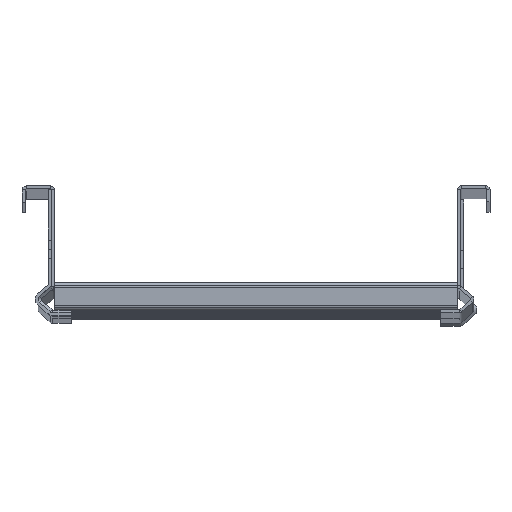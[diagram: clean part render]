
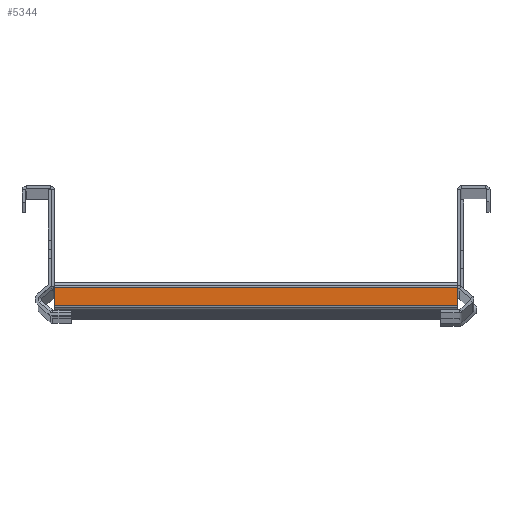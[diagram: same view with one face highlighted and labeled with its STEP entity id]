
A CAD part, top view. The second image highlights one B-rep face of the part: STEP entity #5344.
In plain terms, the highlighted planar face has unit normal (0, 0, 1) as drawn and (-1, 0, 0) by its records, which use the part's own axes.
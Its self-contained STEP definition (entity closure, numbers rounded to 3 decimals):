
#132 = FACE_OUTER_BOUND ( 'NONE', #4379, .T. ) ;
#154 = ORIENTED_EDGE ( 'NONE', *, *, #4807, .T. ) ;
#178 = CARTESIAN_POINT ( 'NONE',  ( -17.5, 2.5, 100. ) ) ;
#195 = VERTEX_POINT ( 'NONE', #4702 ) ;
#534 = CARTESIAN_POINT ( 'NONE',  ( -17.5, 14., 100. ) ) ;
#663 = CARTESIAN_POINT ( 'NONE',  ( -17.5, 11.5, 100. ) ) ;
#695 = CARTESIAN_POINT ( 'NONE',  ( -17.5, 11.5, 100. ) ) ;
#1077 = ORIENTED_EDGE ( 'NONE', *, *, #5660, .T. ) ;
#1151 = CARTESIAN_POINT ( 'NONE',  ( -17.5, 11.5, -100. ) ) ;
#1221 = ORIENTED_EDGE ( 'NONE', *, *, #2720, .F. ) ;
#1350 = DIRECTION ( 'NONE',  ( 1., 0., 0. ) ) ;
#1374 = CARTESIAN_POINT ( 'NONE',  ( -17.5, 14., 100. ) ) ;
#1402 = CARTESIAN_POINT ( 'NONE',  ( -17.5, 14., -100. ) ) ;
#1426 = EDGE_CURVE ( 'NONE', #195, #2440, #4101, .T. ) ;
#1520 = LINE ( 'NONE', #663, #1976 ) ;
#1821 = PLANE ( 'NONE',  #4627 ) ;
#1855 = VERTEX_POINT ( 'NONE', #1151 ) ;
#1976 = VECTOR ( 'NONE', #2402, 1000. ) ;
#2233 = LINE ( 'NONE', #1402, #4812 ) ;
#2402 = DIRECTION ( 'NONE',  ( 0., 0., -1. ) ) ;
#2440 = VERTEX_POINT ( 'NONE', #5398 ) ;
#2720 = EDGE_CURVE ( 'NONE', #5547, #195, #4453, .T. ) ;
#3054 = VECTOR ( 'NONE', #3195, 1000. ) ;
#3195 = DIRECTION ( 'NONE',  ( 0., 0., -1. ) ) ;
#3747 = VECTOR ( 'NONE', #5222, 1000. ) ;
#4101 = LINE ( 'NONE', #178, #3054 ) ;
#4332 = DIRECTION ( 'NONE',  ( 0., -1., 0. ) ) ;
#4379 = EDGE_LOOP ( 'NONE', ( #154, #4770, #1221, #1077 ) ) ;
#4453 = LINE ( 'NONE', #534, #3747 ) ;
#4523 = DIRECTION ( 'NONE',  ( 0., 0., -1. ) ) ;
#4627 = AXIS2_PLACEMENT_3D ( 'NONE', #1374, #1350, #4523 ) ;
#4702 = CARTESIAN_POINT ( 'NONE',  ( -17.5, 2.5, 100. ) ) ;
#4770 = ORIENTED_EDGE ( 'NONE', *, *, #1426, .F. ) ;
#4807 = EDGE_CURVE ( 'NONE', #1855, #2440, #2233, .T. ) ;
#4812 = VECTOR ( 'NONE', #4332, 1000. ) ;
#5222 = DIRECTION ( 'NONE',  ( 0., -1., 0. ) ) ;
#5344 = ADVANCED_FACE ( 'NONE', ( #132 ), #1821, .F. ) ;
#5398 = CARTESIAN_POINT ( 'NONE',  ( -17.5, 2.5, -100. ) ) ;
#5547 = VERTEX_POINT ( 'NONE', #695 ) ;
#5660 = EDGE_CURVE ( 'NONE', #5547, #1855, #1520, .T. ) ;
